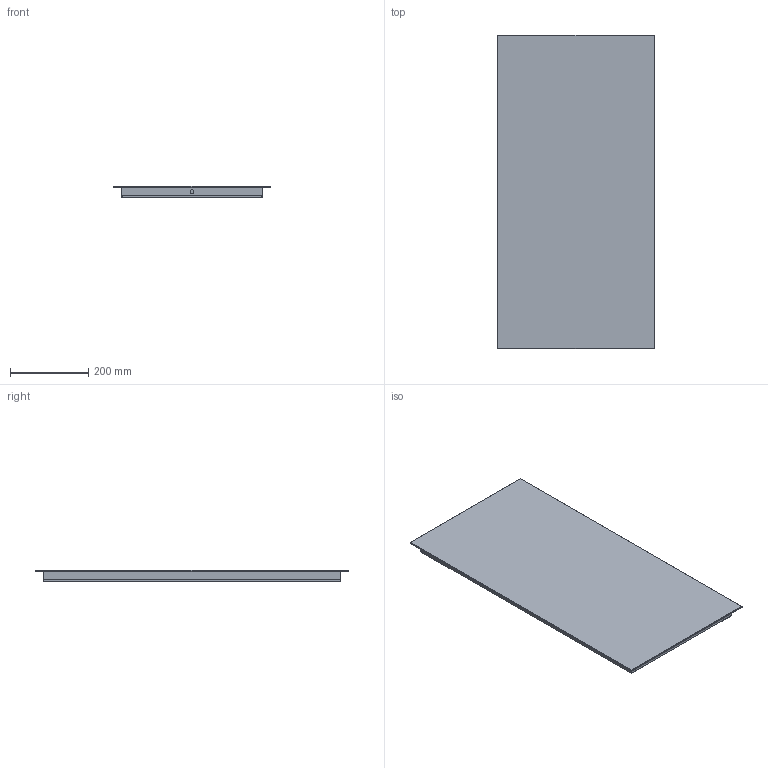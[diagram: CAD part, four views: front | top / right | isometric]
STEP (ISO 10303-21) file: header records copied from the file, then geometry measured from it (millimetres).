
FILE_DESCRIPTION (( 'STEP AP203' ), '1' );
FILE_NAME ('SPIEGEL MODEL 12 40CM.STEP', '2016-07-14T09:41:40', ( '' ), ( '' ), 'SwSTEP 2.0', 'SolidWorks 2016', '' );
FILE_SCHEMA (( 'CONFIG_CONTROL_DESIGN' ));
Length unit declared in the file: millimetre
Products named in the file (1): SPIEGEL MODEL 12 40CM
Bounding box: 400 x 800 x 30 mm (x, y, z)
Volume: 2113400.7 mm3; surface area: 763989.3 mm2
Topology: 1 solids, 1 shells, 53 faces, 114 edges, 68 vertices
Faces by surface type: plane 47, cylinder 6
Entity records: 1469 total; most frequent: CARTESIAN_POINT 236, DIRECTION 234, ORIENTED_EDGE 228, EDGE_CURVE 114, LINE 102, VECTOR 102, VERTEX_POINT 68, AXIS2_PLACEMENT_3D 66
